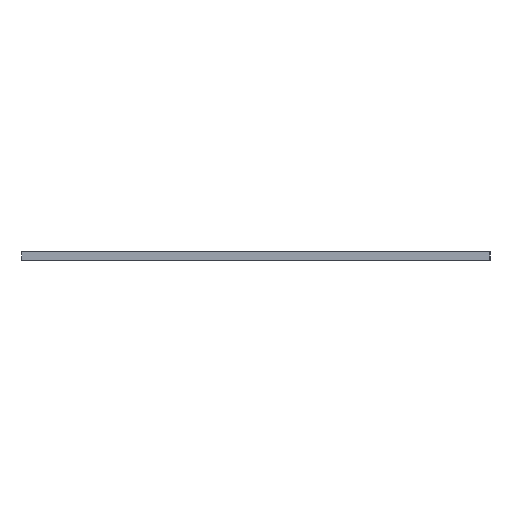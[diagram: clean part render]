
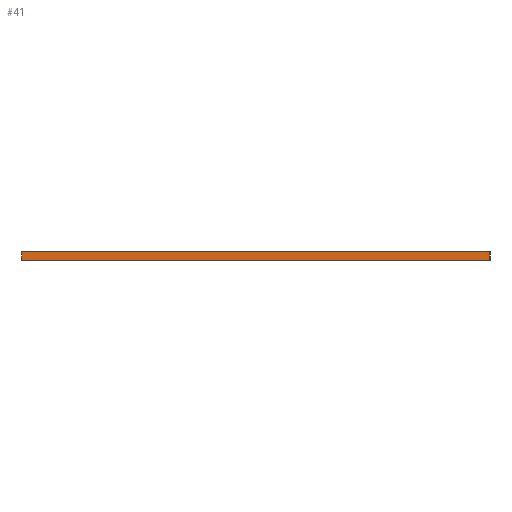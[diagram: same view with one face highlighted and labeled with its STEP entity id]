
A CAD part, left-side view. The second image highlights one B-rep face of the part: STEP entity #41.
In plain terms, the highlighted planar face has unit normal (-1, 0, 0).
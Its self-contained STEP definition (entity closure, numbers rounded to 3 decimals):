
#41=ADVANCED_FACE('',(#53),#357,.T.);
#53=FACE_OUTER_BOUND('',#65,.T.);
#65=EDGE_LOOP('',(#95,#96,#97,#98));
#95=ORIENTED_EDGE('',*,*,#251,.T.);
#96=ORIENTED_EDGE('',*,*,#252,.T.);
#97=ORIENTED_EDGE('',*,*,#253,.T.);
#98=ORIENTED_EDGE('',*,*,#254,.T.);
#143=PCURVE('',#357,#191);
#144=PCURVE('',#357,#192);
#145=PCURVE('',#357,#193);
#146=PCURVE('',#357,#194);
#150=PCURVE('',#358,#198);
#156=PCURVE('',#360,#204);
#162=PCURVE('',#361,#210);
#163=PCURVE('',#362,#211);
#191=DEFINITIONAL_REPRESENTATION('',(#300),#586);
#192=DEFINITIONAL_REPRESENTATION('',(#302),#586);
#193=DEFINITIONAL_REPRESENTATION('',(#304),#586);
#194=DEFINITIONAL_REPRESENTATION('',(#306),#586);
#198=DEFINITIONAL_REPRESENTATION('',(#313),#586);
#204=DEFINITIONAL_REPRESENTATION('',(#323),#586);
#210=DEFINITIONAL_REPRESENTATION('',(#330),#586);
#211=DEFINITIONAL_REPRESENTATION('',(#331),#586);
#227=SURFACE_CURVE('',#299,(#143,#162),.PCURVE_S1.);
#228=SURFACE_CURVE('',#301,(#144,#150),.PCURVE_S1.);
#229=SURFACE_CURVE('',#303,(#145,#163),.PCURVE_S1.);
#230=SURFACE_CURVE('',#305,(#146,#156),.PCURVE_S1.);
#251=EDGE_CURVE('',#343,#344,#227,.T.);
#252=EDGE_CURVE('',#344,#345,#228,.T.);
#253=EDGE_CURVE('',#345,#346,#229,.T.);
#254=EDGE_CURVE('',#346,#343,#230,.T.);
#299=B_SPLINE_CURVE_WITH_KNOTS('',1,(#513,#514),.UNSPECIFIED.,.F.,.F.,(2,
2),(-200.,-150.),.UNSPECIFIED.);
#300=B_SPLINE_CURVE_WITH_KNOTS('',1,(#515,#516),.UNSPECIFIED.,.F.,.F.,(2,
2),(-200.,-150.),.UNSPECIFIED.);
#301=B_SPLINE_CURVE_WITH_KNOTS('',1,(#517,#518),.UNSPECIFIED.,.F.,.F.,(2,
2),(0.,400.),.UNSPECIFIED.);
#302=B_SPLINE_CURVE_WITH_KNOTS('',1,(#519,#520),.UNSPECIFIED.,.F.,.F.,(2,
2),(0.,400.),.UNSPECIFIED.);
#303=B_SPLINE_CURVE_WITH_KNOTS('',1,(#521,#522),.UNSPECIFIED.,.F.,.F.,(2,
2),(150.,200.),.UNSPECIFIED.);
#304=B_SPLINE_CURVE_WITH_KNOTS('',1,(#523,#524),.UNSPECIFIED.,.F.,.F.,(2,
2),(150.,200.),.UNSPECIFIED.);
#305=B_SPLINE_CURVE_WITH_KNOTS('',1,(#525,#526),.UNSPECIFIED.,.F.,.F.,(2,
2),(-400.,0.),.UNSPECIFIED.);
#306=B_SPLINE_CURVE_WITH_KNOTS('',1,(#527,#528),.UNSPECIFIED.,.F.,.F.,(2,
2),(-400.,0.),.UNSPECIFIED.);
#313=B_SPLINE_CURVE_WITH_KNOTS('',1,(#541,#542),.UNSPECIFIED.,.F.,.F.,(2,
2),(0.,400.),.UNSPECIFIED.);
#323=B_SPLINE_CURVE_WITH_KNOTS('',1,(#561,#562),.UNSPECIFIED.,.F.,.F.,(2,
2),(-400.,0.),.UNSPECIFIED.);
#330=B_SPLINE_CURVE_WITH_KNOTS('',1,(#575,#576),.UNSPECIFIED.,.F.,.F.,(2,
2),(-200.,-150.),.UNSPECIFIED.);
#331=B_SPLINE_CURVE_WITH_KNOTS('',1,(#577,#578),.UNSPECIFIED.,.F.,.F.,(2,
2),(150.,200.),.UNSPECIFIED.);
#343=VERTEX_POINT('',#505);
#344=VERTEX_POINT('',#506);
#345=VERTEX_POINT('',#507);
#346=VERTEX_POINT('',#508);
#357=PLANE('',#389);
#358=PLANE('',#390);
#360=PLANE('',#392);
#361=PLANE('',#393);
#362=PLANE('',#394);
#389=AXIS2_PLACEMENT_3D('',#499,#404,$);
#390=AXIS2_PLACEMENT_3D('',#500,#405,$);
#392=AXIS2_PLACEMENT_3D('',#502,#407,$);
#393=AXIS2_PLACEMENT_3D('',#503,#408,$);
#394=AXIS2_PLACEMENT_3D('',#504,#409,$);
#404=DIRECTION('',(-1.,0.,0.));
#405=DIRECTION('',(0.,0.,1.));
#407=DIRECTION('',(0.,0.,-1.));
#408=DIRECTION('',(0.,-1.,0.));
#409=DIRECTION('',(0.,1.,0.));
#499=CARTESIAN_POINT('',(-850.,-585.,-180.));
#500=CARTESIAN_POINT('',(-850.,-585.,-160.));
#502=CARTESIAN_POINT('',(-810.,-585.,-180.));
#503=CARTESIAN_POINT('',(-810.,-585.,-180.));
#504=CARTESIAN_POINT('',(-810.,545.,-180.));
#505=CARTESIAN_POINT('',(-850.,-585.,-180.));
#506=CARTESIAN_POINT('',(-850.,-585.,-160.));
#507=CARTESIAN_POINT('',(-850.,545.,-160.));
#508=CARTESIAN_POINT('',(-850.,545.,-180.));
#513=CARTESIAN_POINT('',(-850.,-585.,-180.));
#514=CARTESIAN_POINT('',(-850.,-585.,-160.));
#515=CARTESIAN_POINT('',(-200.,0.));
#516=CARTESIAN_POINT('',(-150.,0.));
#517=CARTESIAN_POINT('',(-850.,-585.,-160.));
#518=CARTESIAN_POINT('',(-850.,545.,-160.));
#519=CARTESIAN_POINT('',(-150.,0.));
#520=CARTESIAN_POINT('',(-150.,400.));
#521=CARTESIAN_POINT('',(-850.,545.,-160.));
#522=CARTESIAN_POINT('',(-850.,545.,-180.));
#523=CARTESIAN_POINT('',(-150.,400.));
#524=CARTESIAN_POINT('',(-200.,400.));
#525=CARTESIAN_POINT('',(-850.,545.,-180.));
#526=CARTESIAN_POINT('',(-850.,-585.,-180.));
#527=CARTESIAN_POINT('',(-200.,400.));
#528=CARTESIAN_POINT('',(-200.,0.));
#541=CARTESIAN_POINT('',(-150.,0.));
#542=CARTESIAN_POINT('',(-150.,400.));
#561=CARTESIAN_POINT('',(0.,400.));
#562=CARTESIAN_POINT('',(0.,0.));
#575=CARTESIAN_POINT('',(0.,0.));
#576=CARTESIAN_POINT('',(40.,0.));
#577=CARTESIAN_POINT('',(0.,40.));
#578=CARTESIAN_POINT('',(0.,0.));
#586=(
GEOMETRIC_REPRESENTATION_CONTEXT(2)
PARAMETRIC_REPRESENTATION_CONTEXT()
REPRESENTATION_CONTEXT('pspace','')
);
